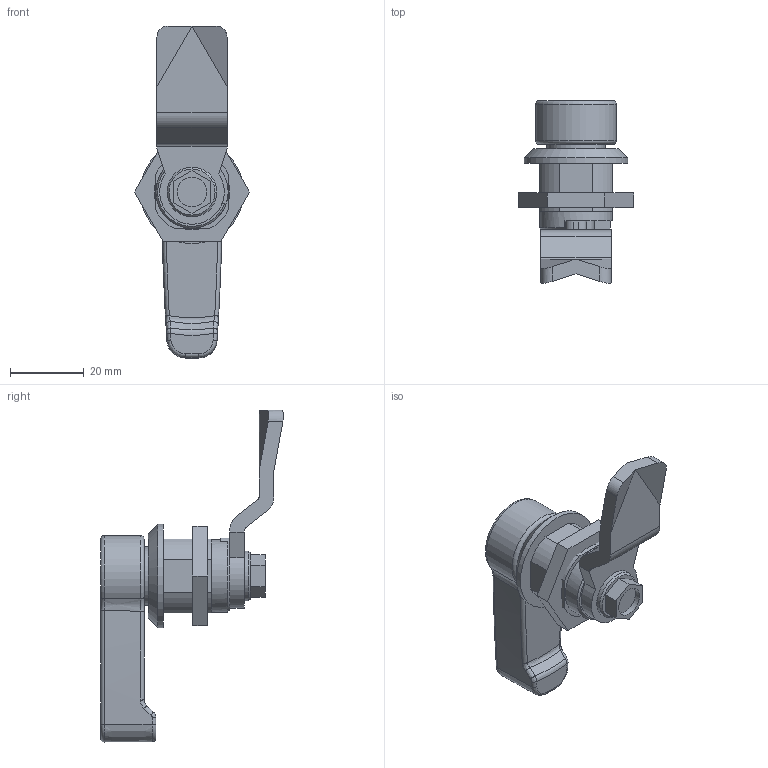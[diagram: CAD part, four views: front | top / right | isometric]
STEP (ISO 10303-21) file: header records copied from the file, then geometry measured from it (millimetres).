
FILE_DESCRIPTION (( 'STEP AP214' ), '1' );
FILE_NAME ('115-HGN-26-NI.step', '2022-04-28T06:14:24', ( '' ), ( '' ), 'SwSTEP 2.0', 'SolidWorks 2019', '' );
FILE_SCHEMA (( 'AUTOMOTIVE_DESIGN' ));
Length unit declared in the file: millimetre
Products named in the file (5): WB115_Gegenmutter^WB115_BE; 115-HGN-26-NI; WB115_Betätigungswelle_Hebel^WB115_BE_HGN; WB115_Zunge^WB115_BE_26; WB115_Gehäuse^WB115_BE_28
Assembly tree (4 placements, depth 2):
  115-HGN-26-NI
    WB115_Gehäuse^WB115_BE_28
    WB115_Betätigungswelle_Hebel^WB115_BE_HGN
    WB115_Zunge^WB115_BE_26
    WB115_Gegenmutter^WB115_BE
Bounding box: 31.18 x 49.59 x 89.99 mm (x, y, z)
Volume: 24885.2 mm3; surface area: 12284.1 mm2
Topology: 4 solids, 4 shells, 132 faces, 314 edges, 199 vertices
Faces by surface type: plane 67, cylinder 30, bspline 18, torus 10, cone 6, sphere 1
Full cylindrical faces by diameter (mm): 4 x1, 8 x1, 10 x2, 13.5 x1, 15.8 x1, 16 x2, 19.6 x1, 20.5 x1, 28 x1
Entity records: 4951 total; most frequent: CARTESIAN_POINT 1369, DIRECTION 596, ORIENTED_EDGE 592, EDGE_CURVE 296, AXIS2_PLACEMENT_3D 224, VERTEX_POINT 195, EDGE_LOOP 161, LINE 148
